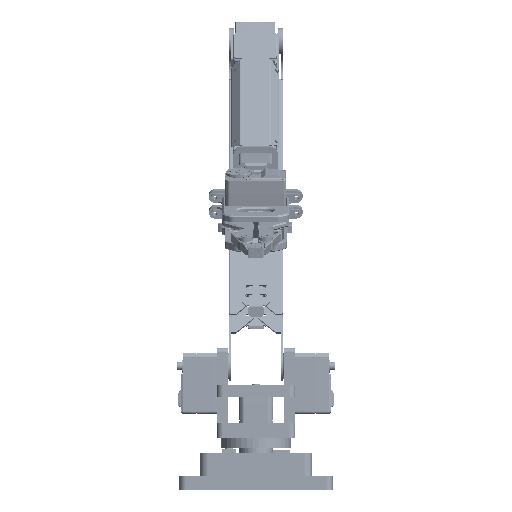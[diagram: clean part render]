
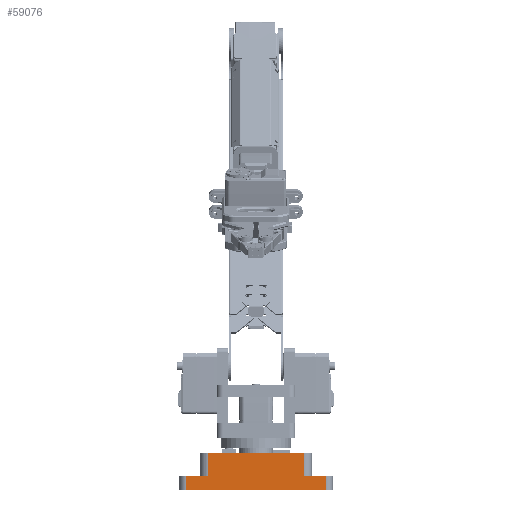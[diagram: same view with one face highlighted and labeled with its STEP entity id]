
A CAD part, front view. The second image highlights one B-rep face of the part: STEP entity #59076.
In plain terms, the highlighted planar face has unit normal (0, -1, 0).
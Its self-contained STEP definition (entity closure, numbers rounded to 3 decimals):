
#3753=PLANE('',#65609);
#6901=FACE_OUTER_BOUND('',#10620,.T.);
#10620=EDGE_LOOP('',(#53960,#53961,#53962,#53963,#53964,#53965,#53966,#53967));
#15371=LINE('',#125893,#20152);
#15381=LINE('',#125938,#20162);
#15382=LINE('',#125941,#20163);
#15383=LINE('',#125943,#20164);
#15384=LINE('',#125945,#20165);
#15385=LINE('',#125947,#20166);
#15386=LINE('',#125949,#20167);
#15387=LINE('',#125950,#20168);
#20152=VECTOR('',#82410,10.);
#20162=VECTOR('',#82452,10.);
#20163=VECTOR('',#82455,10.);
#20164=VECTOR('',#82456,10.);
#20165=VECTOR('',#82457,10.);
#20166=VECTOR('',#82458,10.);
#20167=VECTOR('',#82459,10.);
#20168=VECTOR('',#82460,10.);
#28669=VERTEX_POINT('',#125890);
#28670=VERTEX_POINT('',#125892);
#28689=VERTEX_POINT('',#125936);
#28690=VERTEX_POINT('',#125940);
#28691=VERTEX_POINT('',#125942);
#28692=VERTEX_POINT('',#125944);
#28693=VERTEX_POINT('',#125946);
#28694=VERTEX_POINT('',#125948);
#37128=EDGE_CURVE('',#28670,#28669,#15371,.T.);
#37151=EDGE_CURVE('',#28689,#28669,#15381,.T.);
#37152=EDGE_CURVE('',#28690,#28689,#15382,.T.);
#37153=EDGE_CURVE('',#28691,#28690,#15383,.T.);
#37154=EDGE_CURVE('',#28692,#28691,#15384,.T.);
#37155=EDGE_CURVE('',#28693,#28692,#15385,.T.);
#37156=EDGE_CURVE('',#28694,#28693,#15386,.T.);
#37157=EDGE_CURVE('',#28670,#28694,#15387,.T.);
#53960=ORIENTED_EDGE('',*,*,#37151,.F.);
#53961=ORIENTED_EDGE('',*,*,#37152,.F.);
#53962=ORIENTED_EDGE('',*,*,#37153,.F.);
#53963=ORIENTED_EDGE('',*,*,#37154,.F.);
#53964=ORIENTED_EDGE('',*,*,#37155,.F.);
#53965=ORIENTED_EDGE('',*,*,#37156,.F.);
#53966=ORIENTED_EDGE('',*,*,#37157,.F.);
#53967=ORIENTED_EDGE('',*,*,#37128,.T.);
#59076=ADVANCED_FACE('',(#6901),#3753,.T.);
#65609=AXIS2_PLACEMENT_3D('',#125939,#82453,#82454);
#82410=DIRECTION('',(-1.,0.,0.));
#82452=DIRECTION('',(0.,0.,1.));
#82453=DIRECTION('center_axis',(0.,-1.,0.));
#82454=DIRECTION('ref_axis',(-1.,0.,0.));
#82455=DIRECTION('',(1.,0.,0.));
#82456=DIRECTION('',(0.,0.,1.));
#82457=DIRECTION('',(-1.,0.,0.));
#82458=DIRECTION('',(0.,0.,-1.));
#82459=DIRECTION('',(1.,0.,0.));
#82460=DIRECTION('',(0.,0.,-1.));
#125890=CARTESIAN_POINT('',(-35.,-26.,-3.));
#125892=CARTESIAN_POINT('',(35.,-26.,-3.));
#125893=CARTESIAN_POINT('',(-12.5,-26.,-3.));
#125936=CARTESIAN_POINT('',(-35.,-26.,-20.5));
#125938=CARTESIAN_POINT('',(-35.,-26.,-9.25));
#125939=CARTESIAN_POINT('Origin',(31.5,-26.,-15.5));
#125940=CARTESIAN_POINT('',(-51.5,-26.,-20.5));
#125941=CARTESIAN_POINT('',(-31.5,-26.,-20.5));
#125942=CARTESIAN_POINT('',(-51.5,-26.,-30.5));
#125943=CARTESIAN_POINT('',(-51.5,-26.,-15.5));
#125944=CARTESIAN_POINT('',(51.5,-26.,-30.5));
#125945=CARTESIAN_POINT('',(-31.5,-26.,-30.5));
#125946=CARTESIAN_POINT('',(51.5,-26.,-20.5));
#125947=CARTESIAN_POINT('',(51.5,-26.,-15.5));
#125948=CARTESIAN_POINT('',(35.,-26.,-20.5));
#125949=CARTESIAN_POINT('',(-31.5,-26.,-20.5));
#125950=CARTESIAN_POINT('',(35.,-26.,-9.25));
